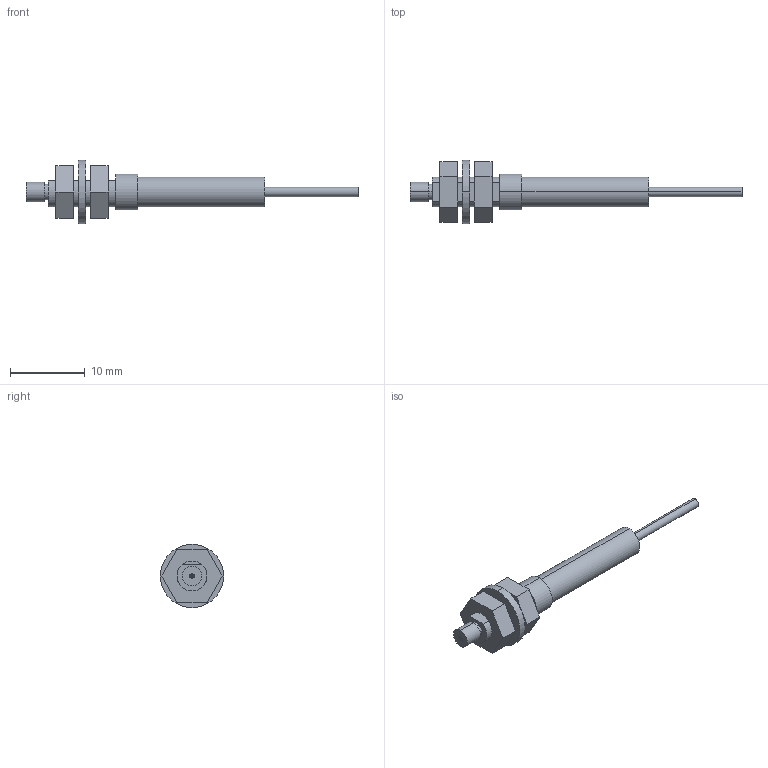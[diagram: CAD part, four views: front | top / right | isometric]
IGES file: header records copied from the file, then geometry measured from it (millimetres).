
Start section: SolidWorks IGES FILE using analytic representation for surfaces
Global section: file name: C:\Documents and Settings\yk0651\デスクトップ\3D_catalog_050929\0_IGES\FT-P60.IGS; native system: SolidWorks 2004 by SolidWorks Corporation; preprocessor: Version 5.3; author: yk0651; date: 051002.181244; units: millimetre
Bounding box: 44.5 x 8.5 x 8.5 mm (x, y, z)
Volume: 590.7 mm3; surface area: 906.8 mm2
Topology: 4 solids, 4 shells, 66 faces, 138 edges, 92 vertices
Faces by surface type: revolution 33, plane 33
